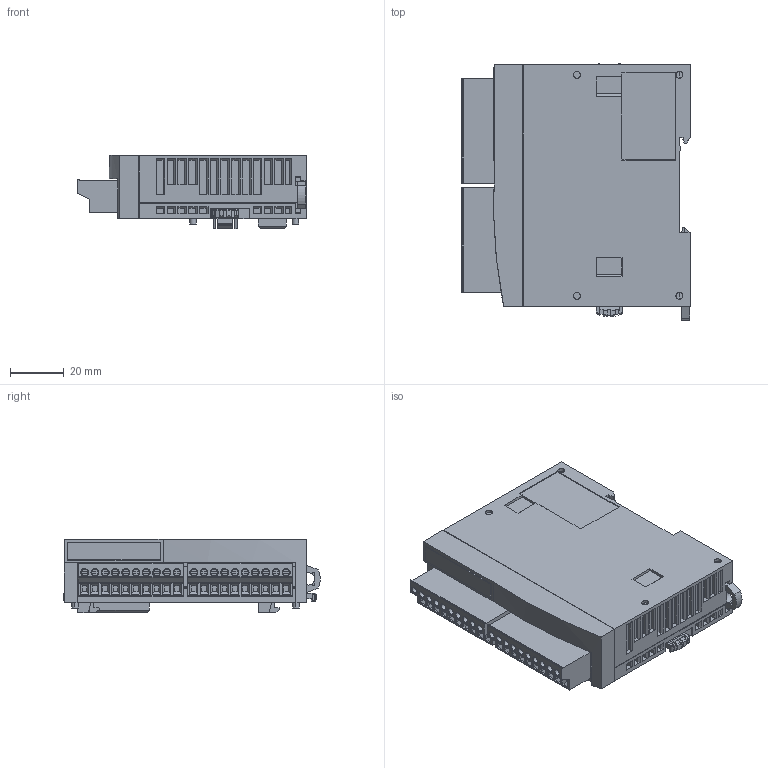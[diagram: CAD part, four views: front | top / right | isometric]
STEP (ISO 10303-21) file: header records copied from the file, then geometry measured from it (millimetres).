
FILE_DESCRIPTION (( 'STEP AP214' ), '1' );
FILE_NAME ('OUTSIDE-FC6A-#16##.step', '2016-01-12T05:31:53', ( '' ), ( '' ), 'SwSTEP 2.0', 'SolidWorks 2014', '' );
FILE_SCHEMA (( 'AUTOMOTIVE_DESIGN' ));
Length unit declared in the file: millimetre
Products named in the file (3): OUTSIDE-FC6A-EX-DIN-RAIL-HOOK; OUTSIDE-FC6A-#16##-BODY; OUTSIDE-FC6A-#16##
Assembly tree (2 placements, depth 2):
  OUTSIDE-FC6A-#16##
    OUTSIDE-FC6A-#16##-BODY
    OUTSIDE-FC6A-EX-DIN-RAIL-HOOK
Bounding box: 84.7 x 95.11 x 27.4 mm (x, y, z)
Volume: 148942.1 mm3; surface area: 56822.6 mm2
Topology: 2 solids, 2 shells, 4523 faces, 12480 edges, 7929 vertices
Faces by surface type: plane 3224, cylinder 857, bspline 260, cone 182
Entity records: 176930 total; most frequent: CARTESIAN_POINT 43718, ORIENTED_EDGE 24640, DIRECTION 19977, EDGE_CURVE 12320, LINE 8885, VECTOR 8885, VERTEX_POINT 7929, AXIS2_PLACEMENT_3D 5546
